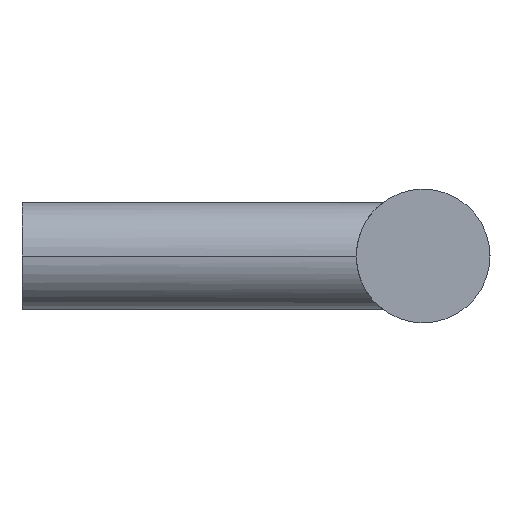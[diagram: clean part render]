
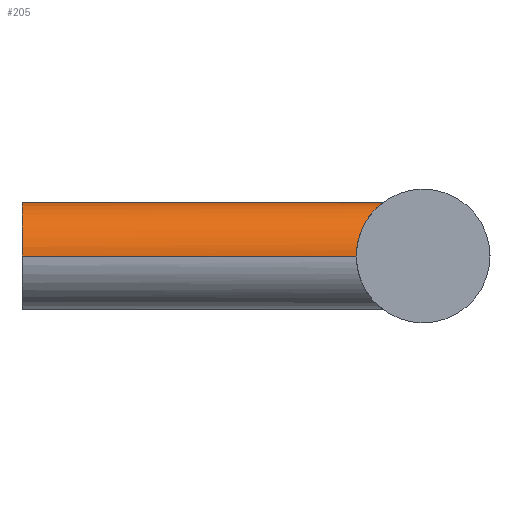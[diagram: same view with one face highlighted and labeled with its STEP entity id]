
A CAD part, left-side view. The second image highlights one B-rep face of the part: STEP entity #205.
In plain terms, the highlighted cylindrical face has radius 4 mm (diameter 8 mm), a partial arc.
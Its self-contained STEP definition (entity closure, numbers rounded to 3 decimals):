
#109 = VERTEX_POINT( '', #268 );
#111 = EDGE_CURVE( '', #185, #109, #270, .T. );
#127 = VERTEX_POINT( '', #289 );
#151 = VERTEX_POINT( '', #315 );
#181 = EDGE_CURVE( '', #109, #201, #347, .T. );
#185 = VERTEX_POINT( '', #354 );
#199 = EDGE_CURVE( '', #127, #185, #370, .T. );
#201 = VERTEX_POINT( '', #372 );
#205 = ADVANCED_FACE( '', ( #376 ), #377, .T. );
#215 = EDGE_CURVE( '', #151, #127, #388, .T. );
#229 = EDGE_CURVE( '', #201, #151, #406, .T. );
#268 = CARTESIAN_POINT( '', ( 4., -25., 0. ) );
#270 = LINE( '', #442, #443 );
#289 = CARTESIAN_POINT( '', ( -4., 0., 0. ) );
#315 = CARTESIAN_POINT( '', ( -4., -25., 0. ) );
#347 = B_SPLINE_CURVE_WITH_KNOTS( '', 3, ( #643, #644, #645, #646, #647, #648, #649, #650, #651, #652, #653, #654, #655, #656, #657, #658, #659, #660 ), .UNSPECIFIED., .F., .F., ( 4, 2, 2, 2, 2, 2, 2, 2, 4 ), ( 19.381, 20.176, 20.97, 21.765, 22.56, 23.38, 24.201, 25.021, 25.841 ), .UNSPECIFIED. );
#354 = CARTESIAN_POINT( '', ( 4., 0., 0. ) );
#370 = CIRCLE( '', #687, 4. );
#372 = CARTESIAN_POINT( '', ( 0., -27., 4. ) );
#376 = FACE_OUTER_BOUND( '', #694, .T. );
#377 = CYLINDRICAL_SURFACE( '', #695, 4. );
#388 = LINE( '', #707, #708 );
#406 = B_SPLINE_CURVE_WITH_KNOTS( '', 3, ( #730, #731, #732, #733, #734, #735, #736, #737, #738, #739, #740, #741, #742, #743, #744, #745, #746, #747 ), .UNSPECIFIED., .F., .F., ( 4, 2, 2, 2, 2, 2, 2, 2, 4 ), ( 0., 0.82, 1.641, 2.461, 3.281, 4.076, 4.871, 5.666, 6.46 ), .UNSPECIFIED. );
#442 = CARTESIAN_POINT( '', ( 4., 0., 0. ) );
#443 = VECTOR( '', #770, 1. );
#643 = CARTESIAN_POINT( '', ( 4., -25., 0. ) );
#644 = CARTESIAN_POINT( '', ( 4., -25., 0.265 ) );
#645 = CARTESIAN_POINT( '', ( 3.973, -25.021, 0.535 ) );
#646 = CARTESIAN_POINT( '', ( 3.865, -25.107, 1.064 ) );
#647 = CARTESIAN_POINT( '', ( 3.784, -25.171, 1.323 ) );
#648 = CARTESIAN_POINT( '', ( 3.575, -25.333, 1.813 ) );
#649 = CARTESIAN_POINT( '', ( 3.447, -25.431, 2.045 ) );
#650 = CARTESIAN_POINT( '', ( 3.158, -25.645, 2.468 ) );
#651 = CARTESIAN_POINT( '', ( 2.997, -25.761, 2.66 ) );
#652 = CARTESIAN_POINT( '', ( 2.654, -25.996, 3.002 ) );
#653 = CARTESIAN_POINT( '', ( 2.459, -26.124, 3.165 ) );
#654 = CARTESIAN_POINT( '', ( 2.035, -26.379, 3.453 ) );
#655 = CARTESIAN_POINT( '', ( 1.807, -26.505, 3.578 ) );
#656 = CARTESIAN_POINT( '', ( 1.324, -26.728, 3.784 ) );
#657 = CARTESIAN_POINT( '', ( 1.07, -26.825, 3.864 ) );
#658 = CARTESIAN_POINT( '', ( 0.545, -26.962, 3.972 ) );
#659 = CARTESIAN_POINT( '', ( 0.273, -27., 4. ) );
#660 = CARTESIAN_POINT( '', ( 0., -27., 4. ) );
#687 = AXIS2_PLACEMENT_3D( '', #875, #876, #877 );
#694 = EDGE_LOOP( '', ( #882, #883, #884, #885, #886 ) );
#695 = AXIS2_PLACEMENT_3D( '', #887, #888, #889 );
#707 = CARTESIAN_POINT( '', ( -4., 0., 0. ) );
#708 = VECTOR( '', #902, 1. );
#730 = CARTESIAN_POINT( '', ( 0., -27., 4. ) );
#731 = CARTESIAN_POINT( '', ( -0.273, -27., 4. ) );
#732 = CARTESIAN_POINT( '', ( -0.545, -26.962, 3.972 ) );
#733 = CARTESIAN_POINT( '', ( -1.07, -26.825, 3.864 ) );
#734 = CARTESIAN_POINT( '', ( -1.324, -26.728, 3.784 ) );
#735 = CARTESIAN_POINT( '', ( -1.807, -26.505, 3.578 ) );
#736 = CARTESIAN_POINT( '', ( -2.035, -26.379, 3.453 ) );
#737 = CARTESIAN_POINT( '', ( -2.459, -26.124, 3.165 ) );
#738 = CARTESIAN_POINT( '', ( -2.654, -25.996, 3.002 ) );
#739 = CARTESIAN_POINT( '', ( -2.997, -25.761, 2.66 ) );
#740 = CARTESIAN_POINT( '', ( -3.158, -25.645, 2.468 ) );
#741 = CARTESIAN_POINT( '', ( -3.447, -25.431, 2.045 ) );
#742 = CARTESIAN_POINT( '', ( -3.575, -25.333, 1.813 ) );
#743 = CARTESIAN_POINT( '', ( -3.784, -25.171, 1.323 ) );
#744 = CARTESIAN_POINT( '', ( -3.865, -25.107, 1.064 ) );
#745 = CARTESIAN_POINT( '', ( -3.973, -25.021, 0.535 ) );
#746 = CARTESIAN_POINT( '', ( -4., -25., 0.265 ) );
#747 = CARTESIAN_POINT( '', ( -4., -25., 0. ) );
#770 = DIRECTION( '', ( 0., -1., 0. ) );
#875 = CARTESIAN_POINT( '', ( 0., 0., 0. ) );
#876 = DIRECTION( '', ( 0., 1., 0. ) );
#877 = DIRECTION( '', ( 1., 0., 0. ) );
#882 = ORIENTED_EDGE( '', *, *, #111, .F. );
#883 = ORIENTED_EDGE( '', *, *, #199, .F. );
#884 = ORIENTED_EDGE( '', *, *, #215, .F. );
#885 = ORIENTED_EDGE( '', *, *, #229, .F. );
#886 = ORIENTED_EDGE( '', *, *, #181, .F. );
#887 = CARTESIAN_POINT( '', ( 0., 0., 0. ) );
#888 = DIRECTION( '', ( 0., 1., 0. ) );
#889 = DIRECTION( '', ( 1., 0., 0. ) );
#902 = DIRECTION( '', ( 0., 1., 0. ) );
